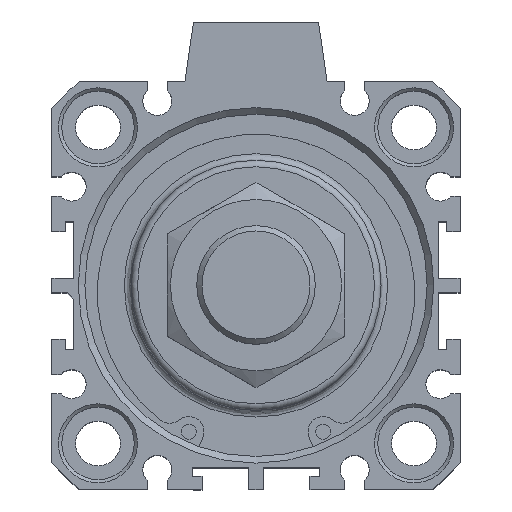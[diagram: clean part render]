
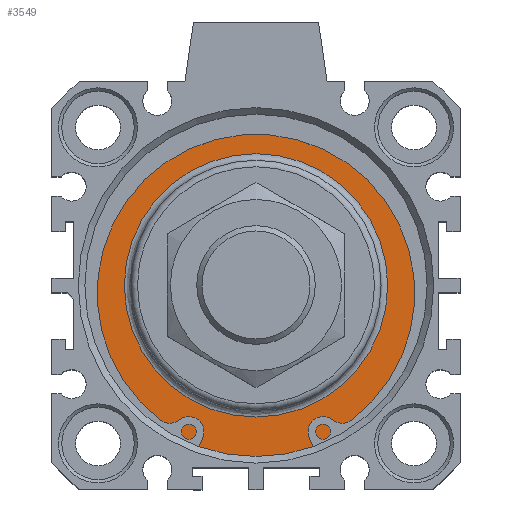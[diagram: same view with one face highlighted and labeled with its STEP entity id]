
A CAD part, top view. The second image highlights one B-rep face of the part: STEP entity #3549.
In plain terms, the highlighted planar face has unit normal (0, 0, 1).
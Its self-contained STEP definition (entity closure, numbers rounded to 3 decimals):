
#3498=CARTESIAN_POINT('',(-0.12,20.837,44.3));
#3499=VERTEX_POINT('',#3498);
#3500=CARTESIAN_POINT('',(-0.12,0.837,44.3));
#3501=DIRECTION('',(0.0,0.0,1.0));
#3502=DIRECTION('',(0.0,-1.0,0.0));
#3503=AXIS2_PLACEMENT_3D('',#3500,#3501,#3502);
#3504=CIRCLE('',#3503,20.0);
#3505=EDGE_CURVE('',#3499,#3499,#3504,.T.);
#3530=CARTESIAN_POINT('',(-0.12,23.337,44.3));
#3531=DIRECTION('',(0.0,0.0,1.0));
#3532=DIRECTION('',(1.0,0.0,0.0));
#3533=AXIS2_PLACEMENT_3D('',#3530,#3531,#3532);
#3534=PLANE('',#3533);
#3535=CARTESIAN_POINT('',(-0.12,26.837,44.3));
#3536=VERTEX_POINT('',#3535);
#3537=CARTESIAN_POINT('',(-0.12,0.837,44.3));
#3538=DIRECTION('',(0.0,0.0,-1.0));
#3539=DIRECTION('',(0.0,1.0,0.0));
#3540=AXIS2_PLACEMENT_3D('',#3537,#3538,#3539);
#3541=CIRCLE('',#3540,26.);
#3542=EDGE_CURVE('',#3536,#3536,#3541,.T.);
#3543=ORIENTED_EDGE('',*,*,#3542,.F.);
#3544=EDGE_LOOP('',(#3543));
#3545=FACE_OUTER_BOUND('',#3544,.T.);
#3546=ORIENTED_EDGE('',*,*,#3505,.F.);
#3547=EDGE_LOOP('',(#3546));
#3548=FACE_BOUND('',#3547,.T.);
#3549=ADVANCED_FACE('',(#3545,#3548),#3534,.T.);
